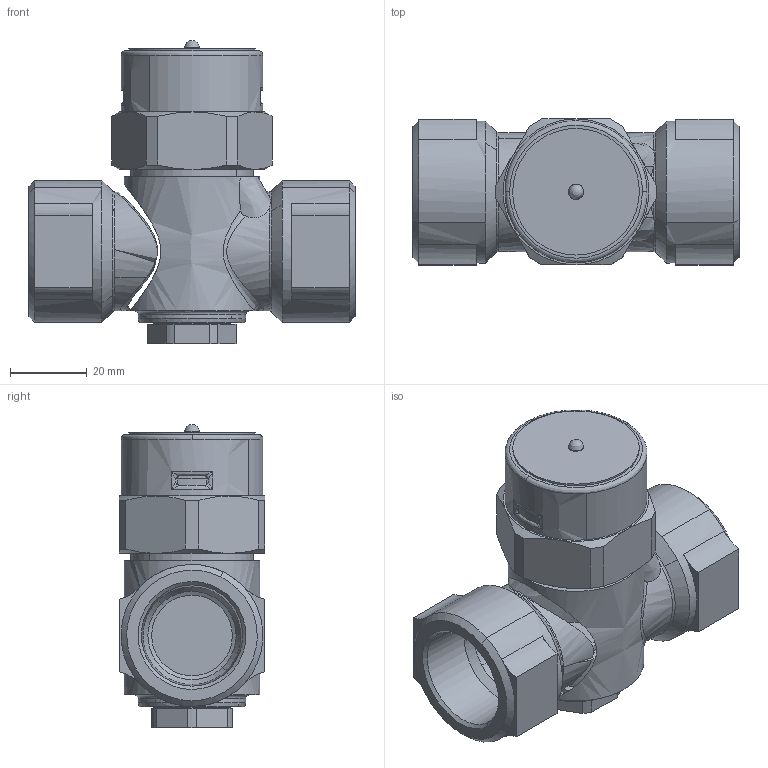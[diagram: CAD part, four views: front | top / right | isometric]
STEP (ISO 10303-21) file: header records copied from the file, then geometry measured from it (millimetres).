
FILE_DESCRIPTION((''),'2;1');
FILE_NAME('','2018-11-01T14:23:14',(''),(''),'','CADfix','');
FILE_SCHEMA(('AUTOMOTIVE_DESIGN { 1 0 10303 214 1 1 1 1 }'));
Length unit declared in the file: millimetre
Products named in the file (8): TSD-42 20A  本体 3D; TSD-42F 僉儍僢僾A 3D; TSD-42F 曐壏僇僶乕丂3D; TSD-42F 銘板　3D; TSD-42F gasket; TSD-42F 銘板鋲; TSD-42F strainer cap; TSD-42 20A CAD外観図　3D_38
Assembly tree (7 placements, depth 2):
  TSD-42 20A CAD外観図　3D_38
    TSD-42 20A  本体 3D
    TSD-42F 僉儍僢僾A 3D
    TSD-42F 曐壏僇僶乕丂3D
    TSD-42F 銘板　3D
    TSD-42F gasket
    TSD-42F 銘板鋲
    TSD-42F strainer cap
Bounding box: 85 x 38 x 79 mm (x, y, z)
Volume: 104728.8 mm3; surface area: 35204.7 mm2
Topology: 7 solids, 7 shells, 289 faces, 1016 edges, 747 vertices
Faces by surface type: bspline 289
Entity records: 18617 total; most frequent: CARTESIAN_POINT 12770, ORIENTED_EDGE 1994, EDGE_CURVE 997, VERTEX_POINT 747, B_SPLINE_CURVE_WITH_KNOTS 685, EDGE_LOOP 318, FACE_OUTER_BOUND 288, ADVANCED_FACE 288
